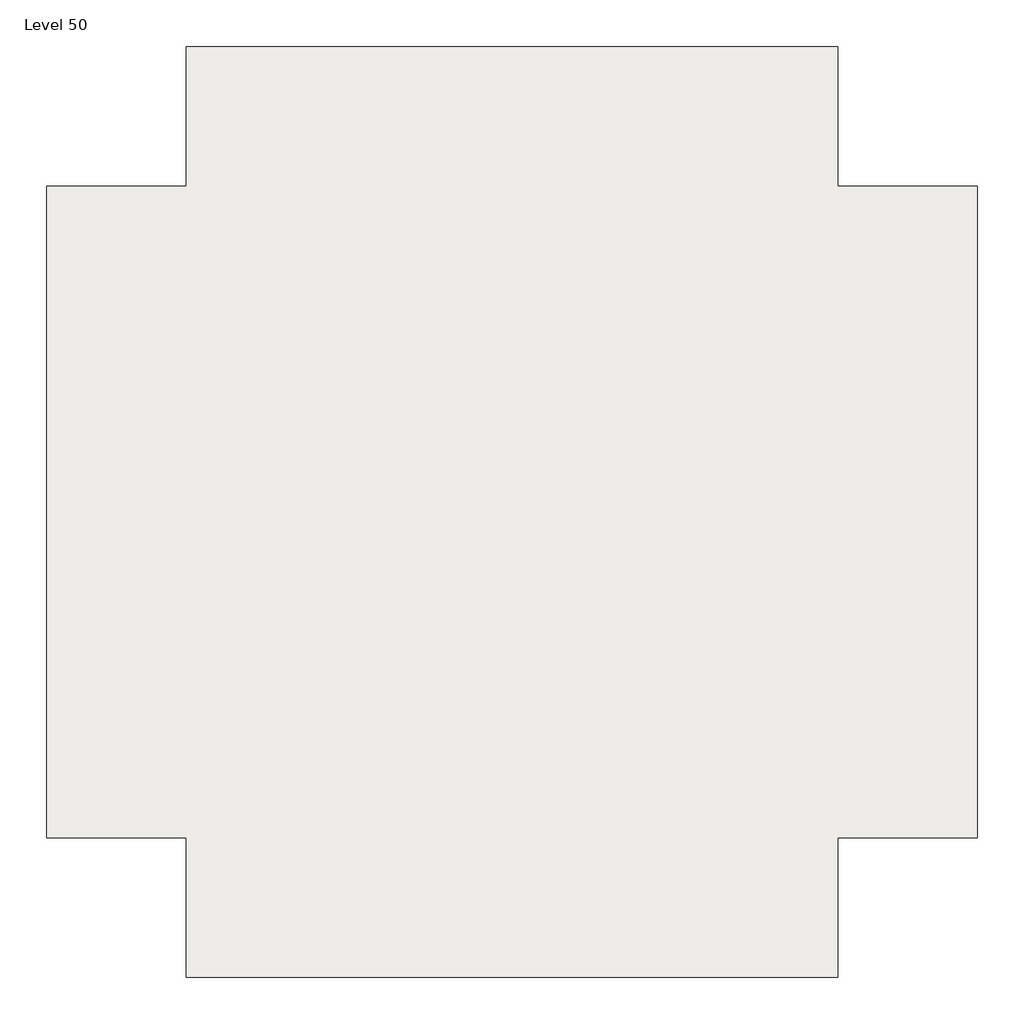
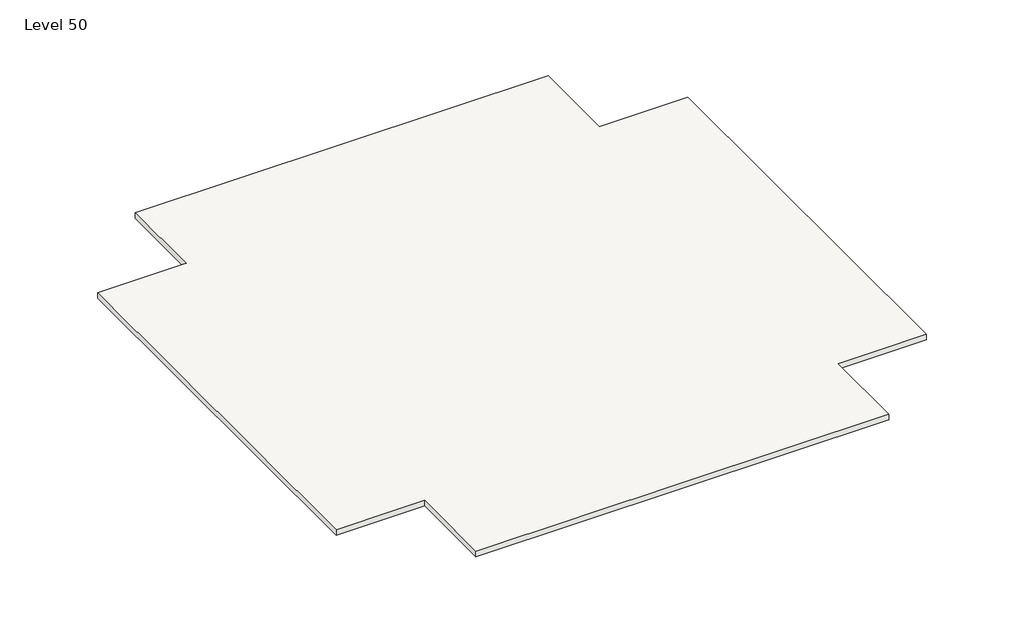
# One storey: 2 slabs.
"""IFC4 building model written with IfcOpenShell, lengths in millimetres."""

import ifcopenshell
import ifcopenshell.guid

model = None  # the IFC model being written
_history = None  # IfcOwnerHistory: only IFC2X3 demands one
_inside = {}  # id of a spatial element -> (the spatial element, [elements in it])
_under = {}  # id of a project, library or spatial element -> (it, [spatial elements below it])
_declared = {}  # id of a project -> (the project, [libraries it declares])
_typed = {}  # id of a type object -> (the type object, [elements of that type])
_made_of = {}  # id of a material, layer set ... -> (it, [elements and type objects made of it])


def new_model(schema):
    """Start an empty IFC model of exactly this schema.

    Asked for "IFC4X3", IfcOpenShell would pick the latest addendum, in which some entities
    have other attributes; the version numbers below select the first issue.
    IFC2X3 requires an IfcOwnerHistory on every rooted entity: one is made here for all.
    """
    global model, _history
    if schema == "IFC4X3":
        model = ifcopenshell.file(schema_version=(4, 3, 0, 0))
    else:
        model = ifcopenshell.file(schema=schema)
    _inside.clear()
    _under.clear()
    _declared.clear()
    _typed.clear()
    _made_of.clear()
    _history = None
    if model.schema == "IFC2X3":
        org = make("IfcOrganization", Name="unknown")
        user = make(
            "IfcPersonAndOrganization",
            ThePerson=make("IfcPerson", FamilyName="unknown"),
            TheOrganization=org,
        )
        app = make(
            "IfcApplication",
            ApplicationDeveloper=org,
            Version="unknown",
            ApplicationFullName="unknown",
            ApplicationIdentifier="unknown",
        )
        _history = make(
            "IfcOwnerHistory",
            OwningUser=user,
            OwningApplication=app,
            ChangeAction="ADDED",
            CreationDate=0,
        )
    return model


def make(cls, **values):
    """One entity of the class cls with the attributes given. An attribute that is None is left unset."""
    return model.create_entity(
        cls, **{name: value for name, value in values.items() if value is not None}
    )


def rooted(cls, **values):
    """An entity with a GlobalId (a new one), such as an element, a storey or a relation."""
    return make(cls, GlobalId=ifcopenshell.guid.new(), OwnerHistory=_history, **values)


def si_unit(unit_type, name, prefix=None):
    """IfcSIUnit, for example si_unit("LENGTHUNIT", "METRE", prefix="MILLI")."""
    return make("IfcSIUnit", UnitType=unit_type, Prefix=prefix, Name=name)


def assignment(units):
    """IfcUnitAssignment: the units of a project."""
    return None if units is None else make("IfcUnitAssignment", Units=units)


def point(xyz):
    """IfcCartesianPoint."""
    return None if xyz is None else make("IfcCartesianPoint", Coordinates=xyz)


def direction(xyz):
    """IfcDirection."""
    return None if xyz is None else make("IfcDirection", DirectionRatios=xyz)


def frame(location, z_axis=None, x_axis=None):
    """IfcAxis2Placement3D, a coordinate frame: its origin and axes. An axis left out is left unset."""
    return make(
        "IfcAxis2Placement3D",
        Location=point(location),
        Axis=direction(z_axis),
        RefDirection=direction(x_axis),
    )


def origin():
    """The frame at (0, 0, 0) with its axes left unset."""
    return frame((0.0, 0.0, 0.0))


def place(relative_to, where):
    """IfcLocalPlacement: puts the frame where relative to a parent placement (None: the world)."""
    return make(
        "IfcLocalPlacement", PlacementRelTo=relative_to, RelativePlacement=where
    )


def context(
    kind, dimensions, precision=None, world=None, true_north=None, identifier=None
):
    """IfcGeometricRepresentationContext, for example the 3D "Model" context."""
    return make(
        "IfcGeometricRepresentationContext",
        ContextIdentifier=identifier,
        ContextType=kind,
        CoordinateSpaceDimension=dimensions,
        Precision=precision,
        WorldCoordinateSystem=world,
        TrueNorth=true_north,
    )


def project(units=None, contexts=None):
    """IfcProject with its units and contexts."""
    return rooted(
        "IfcProject",
        Name="project",
        RepresentationContexts=contexts,
        UnitsInContext=assignment(units),
    )


def spatial(cls, under=None, at=None, **own):
    """A site, building, storey or space (cls), placed at a placement, below another one or the project."""
    s = rooted(cls, ObjectPlacement=at, **own)
    if under is not None:
        _under.setdefault(under.id(), (under, []))[1].append(s)
    return s


def polyline(points):
    """IfcPolyline through the points."""
    return make("IfcPolyline", Points=[point(p) for p in points])


def outline(outer, holes=None, kind="AREA"):
    """IfcArbitraryClosedProfileDef: a profile drawn as a closed curve; with holes, ...WithVoids."""
    if holes is None:
        return make("IfcArbitraryClosedProfileDef", ProfileType=kind, OuterCurve=outer)
    return make(
        "IfcArbitraryProfileDefWithVoids",
        ProfileType=kind,
        OuterCurve=outer,
        InnerCurves=holes,
    )


def extrude(swept, where, along, depth):
    """IfcExtrudedAreaSolid: the profile swept, set in the frame where, extruded along a direction by depth."""
    return make(
        "IfcExtrudedAreaSolid",
        SweptArea=swept,
        Position=where,
        ExtrudedDirection=direction(along),
        Depth=depth,
    )


def shape(context_of_items, identifier, shape_type, items):
    """IfcShapeRepresentation: the items that make up one representation, for example the "Body"."""
    return make(
        "IfcShapeRepresentation",
        ContextOfItems=context_of_items,
        RepresentationIdentifier=identifier,
        RepresentationType=shape_type,
        Items=items,
    )


def made_of(thing, what):
    """Note that an element or type object is made of a material, layer set ...; save() writes the relation."""
    if what is not None:
        _made_of.setdefault(what.id(), (what, []))[1].append(thing)
    return thing


def element(
    cls,
    number,
    at=None,
    inside=None,
    cuts=None,
    type_object=None,
    material=None,
    context=None,
    identifier="Body",
    shape_type=None,
    held_by="IfcProductDefinitionShape",
    body=None,
    shapes=None,
    **own,
):
    """One element of the class cls, such as IfcWall. Its Tag is "e" and its number.

    at: its placement. inside: the storey or other place that contains it. cuts: it is an
    opening in that element (IfcRelVoidsElement). A single representation is given by context,
    identifier, shape_type and body (its items); several are given by shapes. held_by: the class
    of the entity that holds the representations. save() writes the other relations.
    """
    e = rooted(cls, Tag="e%d" % number, ObjectPlacement=at, **own)
    if body is not None:
        shapes = [shape(context, identifier, shape_type, body)]
    if shapes is not None:
        e.Representation = make(held_by, Representations=shapes)
    if inside is not None:
        _inside.setdefault(inside.id(), (inside, []))[1].append(e)
    if cuts is not None:
        rooted(
            "IfcRelVoidsElement", RelatingBuildingElement=cuts, RelatedOpeningElement=e
        )
    if type_object is not None:
        _typed.setdefault(type_object.id(), (type_object, []))[1].append(e)
    return made_of(e, material)


def aggregate(whole, parts):
    """IfcRelAggregates: a whole, such as a stair, and the parts it consists of."""
    return rooted("IfcRelAggregates", RelatingObject=whole, RelatedObjects=parts)


def save(model, path):
    """Write the relations noted so far, then the file.

    IfcRelAggregates (storeys below a building ...), IfcRelContainedInSpatialStructure (elements
    in a storey), IfcRelDefinesByType, IfcRelAssociatesMaterial and IfcRelDeclares: one each for
    every whole, place, type object, material and project.
    """
    for whole, parts in _under.values():
        aggregate(whole, parts)
    for where, things in _inside.values():
        rooted(
            "IfcRelContainedInSpatialStructure",
            RelatedElements=things,
            RelatingStructure=where,
        )
    for kind, things in _typed.values():
        rooted("IfcRelDefinesByType", RelatedObjects=things, RelatingType=kind)
    for what, things in _made_of.values():
        rooted("IfcRelAssociatesMaterial", RelatedObjects=things, RelatingMaterial=what)
    for by, libraries in _declared.values():
        rooted("IfcRelDeclares", RelatingContext=by, RelatedDefinitions=libraries)
    model.write(path)


model = new_model("IFC4")

# Units and contexts
model_context = context("Model", 3, world=origin())
ifc_project = project(units=[si_unit("LENGTHUNIT", "METRE", prefix="MILLI")], contexts=[model_context])

# Site, building, storey
site = spatial("IfcSite", under=ifc_project)
building = spatial("IfcBuilding", under=site)
storey = spatial("IfcBuildingStorey", under=building, Name="Level 50", Elevation=149352.0)

# Slabs
placement = place(None, origin())
element("IfcSlab", 1, ObjectType="Generic - 12\"", at=placement, inside=storey, context=model_context, shape_type="SweptSolid", body=[
    extrude(outline(polyline([(-7150.3629456, 4479.6634547), (-7150.3629456, 9051.6634547), (14185.6370544, 9051.6634547), (14185.6370544, 4479.6634547), (18757.6370544, 4479.6634547), (18757.6370544, -16856.3365453), (14185.6370544, -16856.3365453), (14185.6370544, -21428.3365453), (-7150.3629456, -21428.3365453), (-7150.3629456, -16856.3365453), (-11722.3629456, -16856.3365453), (-11722.3629456, 4479.6634547), (-7150.3629456, 4479.6634547)])), frame((0.0, 0.0, 149047.2), z_axis=(0.0, 0.0, 1.0), x_axis=(1.0, 0.0, 0.0)), (0.0, 0.0, 1.0), 304.8),
])
element("IfcSlab", 2, ObjectType="Generic - 12\"", at=placement, inside=storey, context=model_context, shape_type="SweptSolid", body=[
    extrude(outline(polyline([(-7150.3629456, 4479.6634547), (-7150.3629456, 9051.6634547), (14185.6370544, 9051.6634547), (14185.6370544, 4479.6634547), (18757.6370544, 4479.6634547), (18757.6370544, -16856.3365453), (14185.6370544, -16856.3365453), (14185.6370544, -21428.3365453), (-7150.3629456, -21428.3365453), (-7150.3629456, -16856.3365453), (-11722.3629456, -16856.3365453), (-11722.3629456, 4479.6634547), (-7150.3629456, 4479.6634547)])), frame((0.0, 0.0, 149047.2), z_axis=(0.0, 0.0, 1.0), x_axis=(1.0, 0.0, 0.0)), (0.0, 0.0, 1.0), 304.8),
])

save(model, "model.ifc")
